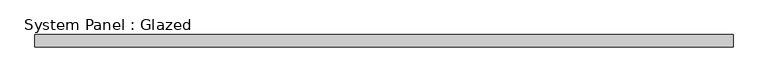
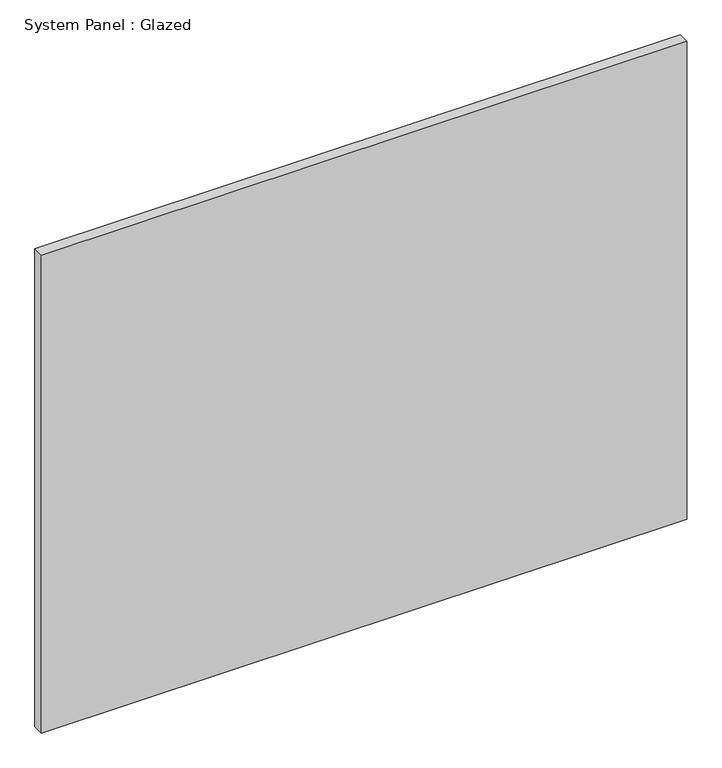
"""IFC4 building model written with IfcOpenShell, lengths in millimetres: plate geometry, System Panel : Glazed."""

from ifc_helpers import new_model, si_unit, origin, origin_with_axes, place, context, project, spatial, polyline, outline, extrude, source, transform, mapped, element, save


def system_panel_glazed_37fd4396(model_context):
    return source(origin(), model_context, "Body", "SweptSolid", [
        extrude(outline(polyline([(718.0555555, -49.5), (-718.0555555, -49.5), (-718.0555555, -24.5), (718.0555555, -24.5), (718.0555555, -49.5)])), origin_with_axes(), (0.0, 0.0, 1.0), 1125.0),
    ])


if __name__ == "__main__":
    model = new_model("IFC4")
    model_context = context("Model", 3, world=origin())
    ifc_project = project(units=[si_unit("LENGTHUNIT", "METRE", prefix="MILLI")], contexts=[model_context])
    site = spatial("IfcSite", under=ifc_project)
    building = spatial("IfcBuilding", under=site)
    placement = place(None, origin())
    system_panel_glazed_shape = system_panel_glazed_37fd4396(model_context)
    element("IfcPlate", 1, ObjectType="System Panel : Glazed", at=placement, inside=building, context=model_context, shape_type="MappedRepresentation", body=[
        mapped(system_panel_glazed_shape, transform((0.0, 0.0, 0.0), x_axis=(1.0, 0.0, 0.0), y_axis=(0.0, 1.0, 0.0), z_axis=(0.0, 0.0, 1.0))),
    ])
    save(model, "model.ifc")
